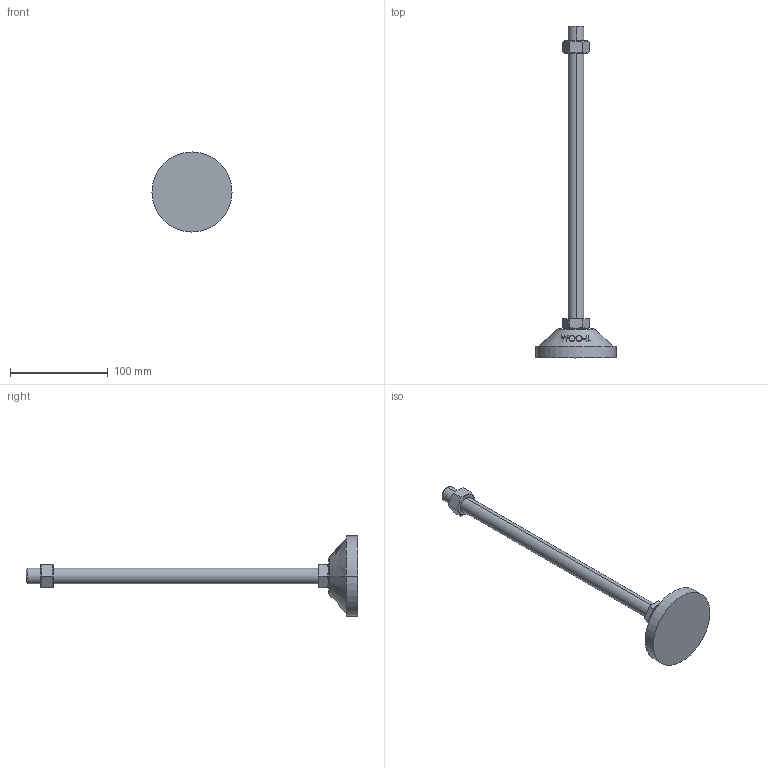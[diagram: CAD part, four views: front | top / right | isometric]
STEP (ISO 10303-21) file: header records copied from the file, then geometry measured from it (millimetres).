
FILE_DESCRIPTION (( 'STEP AP214' ), '1' );
FILE_NAME ('RL82-M16-300.step', '2021-01-06T08:18:10', ( '' ), ( '' ), 'SwSTEP 2.0', 'SolidWorks 2019', '' );
FILE_SCHEMA (( 'AUTOMOTIVE_DESIGN' ));
Length unit declared in the file: millimetre
Products named in the file (1): RL82-M16-300
Bounding box: 82 x 340 x 82 mm (x, y, z)
Volume: 179909.8 mm3; surface area: 33952.8 mm2
Topology: 3 solids, 3 shells, 93 faces, 217 edges, 140 vertices
Faces by surface type: plane 47, cone 22, bspline 16, cylinder 6, torus 2
Entity records: 4223 total; most frequent: CARTESIAN_POINT 2191, ORIENTED_EDGE 434, DIRECTION 349, EDGE_CURVE 217, VERTEX_POINT 140, AXIS2_PLACEMENT_3D 134, EDGE_LOOP 105, FACE_OUTER_BOUND 93
